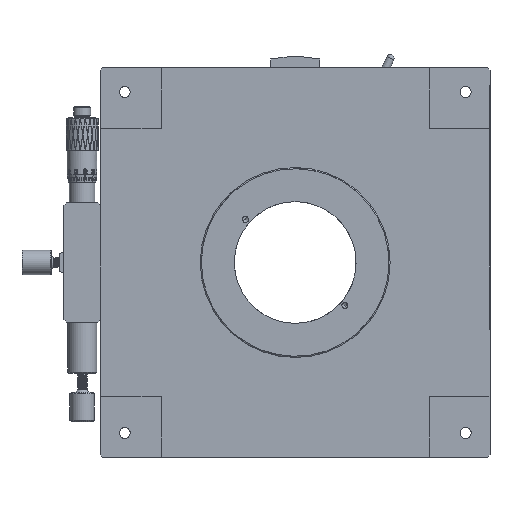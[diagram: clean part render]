
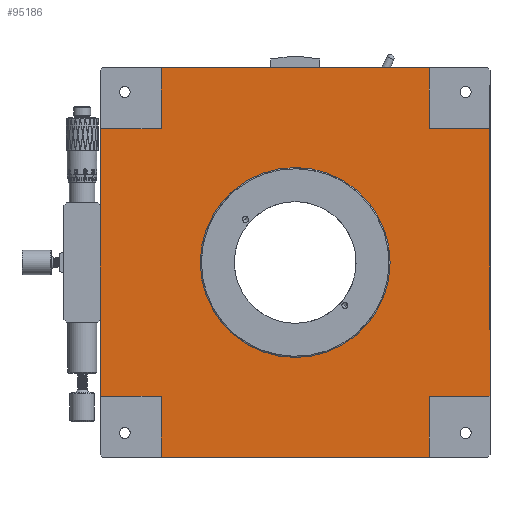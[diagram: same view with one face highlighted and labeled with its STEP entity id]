
A CAD part, front view. The second image highlights one B-rep face of the part: STEP entity #95186.
In plain terms, the highlighted planar face has unit normal (0, -1, 0).
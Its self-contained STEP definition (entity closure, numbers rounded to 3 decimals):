
#3425 = CARTESIAN_POINT ( 'NONE',  ( 55., 0.3, -80. ) ) ;
#7736 = DIRECTION ( 'NONE',  ( 0., 0., -1. ) ) ;
#9299 = DIRECTION ( 'NONE',  ( 1., 0., 0. ) ) ;
#9948 = ORIENTED_EDGE ( 'NONE', *, *, #142326, .F. ) ;
#11522 = LINE ( 'NONE', #36821, #331021 ) ;
#17504 = VERTEX_POINT ( 'NONE', #144289 ) ;
#23839 = PLANE ( 'NONE',  #220435 ) ;
#30442 = VECTOR ( 'NONE', #382502, 1000. ) ;
#33466 = DIRECTION ( 'NONE',  ( 0., -1., 0. ) ) ;
#35911 = VERTEX_POINT ( 'NONE', #92100 ) ;
#36153 = EDGE_LOOP ( 'NONE', ( #293954, #276369, #71078, #101372, #9948, #122090, #370046, #200757, #312268, #333537, #320096, #216503 ) ) ;
#36492 = LINE ( 'NONE', #245909, #357270 ) ;
#36821 = CARTESIAN_POINT ( 'NONE',  ( -80., 0.3, 80. ) ) ;
#38225 = LINE ( 'NONE', #3425, #361291 ) ;
#40669 = CARTESIAN_POINT ( 'NONE',  ( 80., 0.3, 55. ) ) ;
#41118 = CARTESIAN_POINT ( 'NONE',  ( 55., 0.3, -80. ) ) ;
#46662 = EDGE_CURVE ( 'NONE', #366144, #157422, #36492, .T. ) ;
#46990 = VERTEX_POINT ( 'NONE', #378658 ) ;
#56779 = FACE_OUTER_BOUND ( 'NONE', #36153, .T. ) ;
#62112 = CARTESIAN_POINT ( 'NONE',  ( -55., 0.3, -80. ) ) ;
#63978 = LINE ( 'NONE', #273478, #256328 ) ;
#71078 = ORIENTED_EDGE ( 'NONE', *, *, #146114, .F. ) ;
#74948 = EDGE_CURVE ( 'NONE', #35911, #366144, #350607, .T. ) ;
#77214 = DIRECTION ( 'NONE',  ( 1., 0., 0. ) ) ;
#85490 = DIRECTION ( 'NONE',  ( 0., 0., 1. ) ) ;
#90541 = VERTEX_POINT ( 'NONE', #351228 ) ;
#92100 = CARTESIAN_POINT ( 'NONE',  ( 55., 0.3, 80. ) ) ;
#94804 = VERTEX_POINT ( 'NONE', #149264 ) ;
#95186 = ADVANCED_FACE ( 'NONE', ( #289622, #56779 ), #23839, .T. ) ;
#101372 = ORIENTED_EDGE ( 'NONE', *, *, #346916, .T. ) ;
#107780 = VERTEX_POINT ( 'NONE', #193545 ) ;
#114212 = CARTESIAN_POINT ( 'NONE',  ( -80., 0.3, -55. ) ) ;
#114735 = CARTESIAN_POINT ( 'NONE',  ( -80., 0.3, 80. ) ) ;
#114794 = EDGE_CURVE ( 'NONE', #35911, #107780, #174817, .T. ) ;
#115773 = ORIENTED_EDGE ( 'NONE', *, *, #135562, .F. ) ;
#116269 = VECTOR ( 'NONE', #85490, 1000. ) ;
#116463 = LINE ( 'NONE', #118377, #163179 ) ;
#118377 = CARTESIAN_POINT ( 'NONE',  ( 80., 0.3, 80. ) ) ;
#120535 = EDGE_LOOP ( 'NONE', ( #115773 ) ) ;
#121538 = EDGE_CURVE ( 'NONE', #90541, #17504, #126387, .T. ) ;
#122090 = ORIENTED_EDGE ( 'NONE', *, *, #121538, .F. ) ;
#126387 = LINE ( 'NONE', #254310, #285190 ) ;
#134073 = DIRECTION ( 'NONE',  ( 0., 0., -1. ) ) ;
#135399 = CARTESIAN_POINT ( 'NONE',  ( -80., 0.3, -80. ) ) ;
#135562 = EDGE_CURVE ( 'NONE', #46990, #46990, #163238, .T. ) ;
#137609 = EDGE_CURVE ( 'NONE', #94804, #383813, #63978, .T. ) ;
#141351 = DIRECTION ( 'NONE',  ( -1., 0., 0. ) ) ;
#142326 = EDGE_CURVE ( 'NONE', #17504, #275554, #38225, .T. ) ;
#144289 = CARTESIAN_POINT ( 'NONE',  ( 55., 0.3, -55. ) ) ;
#146114 = EDGE_CURVE ( 'NONE', #161645, #230530, #351323, .T. ) ;
#149264 = CARTESIAN_POINT ( 'NONE',  ( -80., 0.3, 55. ) ) ;
#157422 = VERTEX_POINT ( 'NONE', #40669 ) ;
#161645 = VERTEX_POINT ( 'NONE', #307266 ) ;
#163179 = VECTOR ( 'NONE', #234825, 1000. ) ;
#163238 = CIRCLE ( 'NONE', #225054, 39. ) ;
#169324 = CARTESIAN_POINT ( 'NONE',  ( 0., 0.3, 0. ) ) ;
#174817 = LINE ( 'NONE', #114735, #30442 ) ;
#175058 = DIRECTION ( 'NONE',  ( 0., -1., 0. ) ) ;
#176953 = DIRECTION ( 'NONE',  ( 0., 0., -1. ) ) ;
#177784 = DIRECTION ( 'NONE',  ( 0., 0., -1. ) ) ;
#179951 = VECTOR ( 'NONE', #141351, 1000. ) ;
#184424 = EDGE_CURVE ( 'NONE', #90541, #157422, #116463, .T. ) ;
#188430 = DIRECTION ( 'NONE',  ( -1., 0., 0. ) ) ;
#193545 = CARTESIAN_POINT ( 'NONE',  ( -55., 0.3, 80. ) ) ;
#200757 = ORIENTED_EDGE ( 'NONE', *, *, #46662, .F. ) ;
#216503 = ORIENTED_EDGE ( 'NONE', *, *, #137609, .F. ) ;
#220435 = AXIS2_PLACEMENT_3D ( 'NONE', #169324, #175058, #176953 ) ;
#225054 = AXIS2_PLACEMENT_3D ( 'NONE', #299257, #33466, #134073 ) ;
#230530 = VERTEX_POINT ( 'NONE', #301127 ) ;
#234825 = DIRECTION ( 'NONE',  ( 0., 0., 1. ) ) ;
#245909 = CARTESIAN_POINT ( 'NONE',  ( 80., 0.3, 55. ) ) ;
#251102 = EDGE_CURVE ( 'NONE', #94804, #255109, #11522, .T. ) ;
#254310 = CARTESIAN_POINT ( 'NONE',  ( 80., 0.3, -55. ) ) ;
#255109 = VERTEX_POINT ( 'NONE', #270700 ) ;
#256328 = VECTOR ( 'NONE', #295015, 1000. ) ;
#266752 = CARTESIAN_POINT ( 'NONE',  ( 55., 0.3, 55. ) ) ;
#269264 = CARTESIAN_POINT ( 'NONE',  ( -55., 0.3, 55. ) ) ;
#270700 = CARTESIAN_POINT ( 'NONE',  ( -80., 0.3, -55. ) ) ;
#273478 = CARTESIAN_POINT ( 'NONE',  ( -80., 0.3, 55. ) ) ;
#275246 = LINE ( 'NONE', #358783, #322988 ) ;
#275554 = VERTEX_POINT ( 'NONE', #41118 ) ;
#276369 = ORIENTED_EDGE ( 'NONE', *, *, #287521, .F. ) ;
#285190 = VECTOR ( 'NONE', #188430, 1000. ) ;
#287521 = EDGE_CURVE ( 'NONE', #230530, #255109, #380054, .T. ) ;
#289622 = FACE_BOUND ( 'NONE', #120535, .T. ) ;
#291731 = EDGE_CURVE ( 'NONE', #383813, #107780, #275246, .T. ) ;
#293954 = ORIENTED_EDGE ( 'NONE', *, *, #251102, .T. ) ;
#295015 = DIRECTION ( 'NONE',  ( 1., 0., 0. ) ) ;
#297918 = VECTOR ( 'NONE', #177784, 1000. ) ;
#299257 = CARTESIAN_POINT ( 'NONE',  ( 0., 0.3, 0. ) ) ;
#300557 = DIRECTION ( 'NONE',  ( 0., 0., 1. ) ) ;
#301127 = CARTESIAN_POINT ( 'NONE',  ( -55., 0.3, -55. ) ) ;
#307266 = CARTESIAN_POINT ( 'NONE',  ( -55., 0.3, -80. ) ) ;
#312268 = ORIENTED_EDGE ( 'NONE', *, *, #74948, .F. ) ;
#313122 = VECTOR ( 'NONE', #77214, 1000. ) ;
#317778 = LINE ( 'NONE', #135399, #313122 ) ;
#320096 = ORIENTED_EDGE ( 'NONE', *, *, #291731, .F. ) ;
#322988 = VECTOR ( 'NONE', #300557, 1000. ) ;
#323437 = CARTESIAN_POINT ( 'NONE',  ( 55., 0.3, 80. ) ) ;
#331021 = VECTOR ( 'NONE', #7736, 1000. ) ;
#333537 = ORIENTED_EDGE ( 'NONE', *, *, #114794, .T. ) ;
#346916 = EDGE_CURVE ( 'NONE', #161645, #275554, #317778, .T. ) ;
#350607 = LINE ( 'NONE', #323437, #297918 ) ;
#351228 = CARTESIAN_POINT ( 'NONE',  ( 80., 0.3, -55. ) ) ;
#351323 = LINE ( 'NONE', #62112, #116269 ) ;
#357270 = VECTOR ( 'NONE', #9299, 1000. ) ;
#358783 = CARTESIAN_POINT ( 'NONE',  ( -55., 0.3, 80. ) ) ;
#360349 = DIRECTION ( 'NONE',  ( 0., 0., -1. ) ) ;
#361291 = VECTOR ( 'NONE', #360349, 1000. ) ;
#366144 = VERTEX_POINT ( 'NONE', #266752 ) ;
#370046 = ORIENTED_EDGE ( 'NONE', *, *, #184424, .T. ) ;
#378658 = CARTESIAN_POINT ( 'NONE',  ( 0., 0.3, -39. ) ) ;
#380054 = LINE ( 'NONE', #114212, #179951 ) ;
#382502 = DIRECTION ( 'NONE',  ( -1., 0., 0. ) ) ;
#383813 = VERTEX_POINT ( 'NONE', #269264 ) ;
